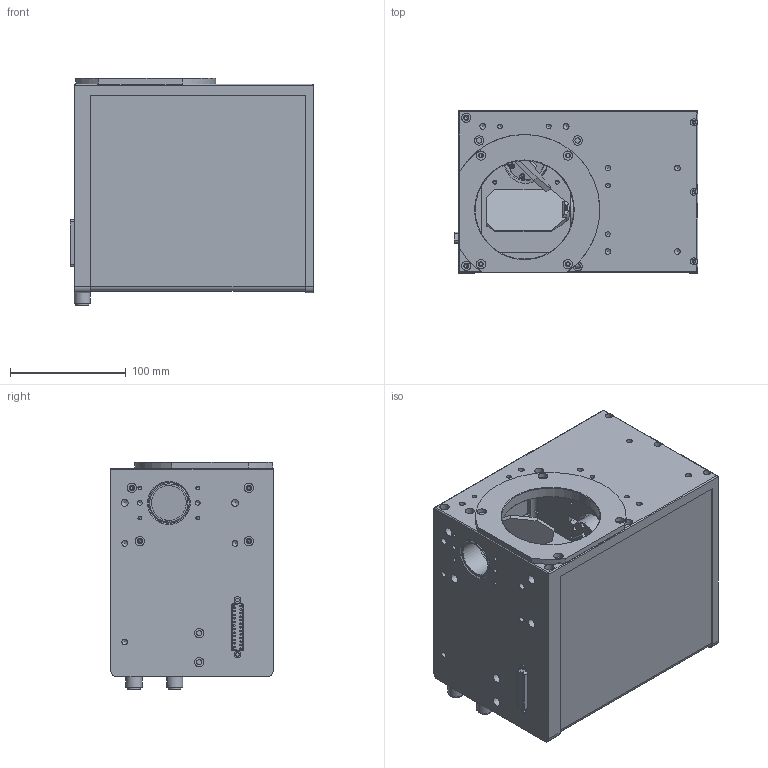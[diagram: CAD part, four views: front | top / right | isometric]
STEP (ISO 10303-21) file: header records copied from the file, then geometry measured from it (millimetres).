
FILE_DESCRIPTION( ( 'Unknown' ), '1' );
FILE_NAME( 'C:/Users/guow115776/Desktop/30mm光栅方头模型（scanlab尺寸）.stp', 'Unknown', ( 'Unknown' ), ( 'Unknown' ), 'XStep 1.0', 'Unknown', ' ' );
FILE_SCHEMA( ( 'automotive_design' ) );
Length unit declared in the file: millimetre
Products named in the file (3): 14
Bounding box: 210.5 x 140 x 196.1 mm (x, y, z)
Volume: 1256940.5 mm3; surface area: 471086.9 mm2
Topology: 3 solids, 33 shells, 1167 faces, 3077 edges, 2043 vertices
Faces by surface type: plane 591, cylinder 385, cone 111, extrusion 36, torus 19, bspline 13, sphere 12
Full cylindrical faces by diameter (mm): 0.2 x1, 0.3 x1, 1.075 x2, 1.3 x25, 1.567 x15, 2 x7, 2.013 x1, 2.1 x3, 2.2 x8, 2.459 x9, 3 x1, 3.05 x2, 3.2 x5, 3.242 x26, 4 x14, 4.4 x2, 4.5 x19, 4.917 x13, 5 x2, 5.714 x2, 6 x12, 6.05 x1, 6.35 x2, 6.5 x2, 6.9 x1, 7.35 x1, 8 x17, 8.4 x4, 8.566 x3, 8.95 x1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
Entity records: 45233 total; most frequent: CARTESIAN_POINT 9695, DIRECTION 5383, ORIENTED_EDGE 4736, EDGE_CURVE 2368, AXIS2_PLACEMENT_3D 2055, EDGE_LOOP 1830, VERTEX_POINT 1778, FACE_OUTER_BOUND 1430
